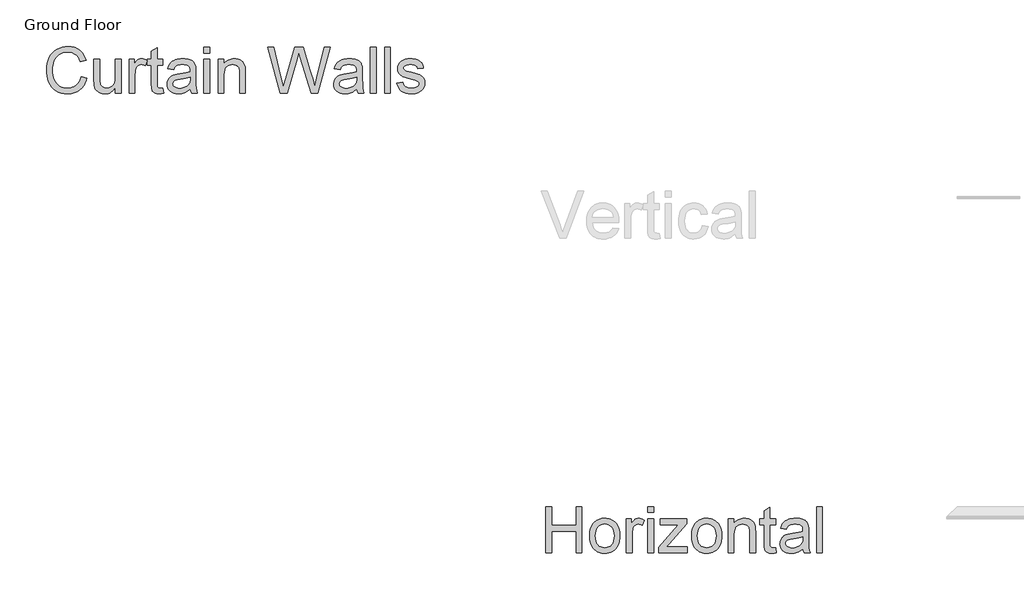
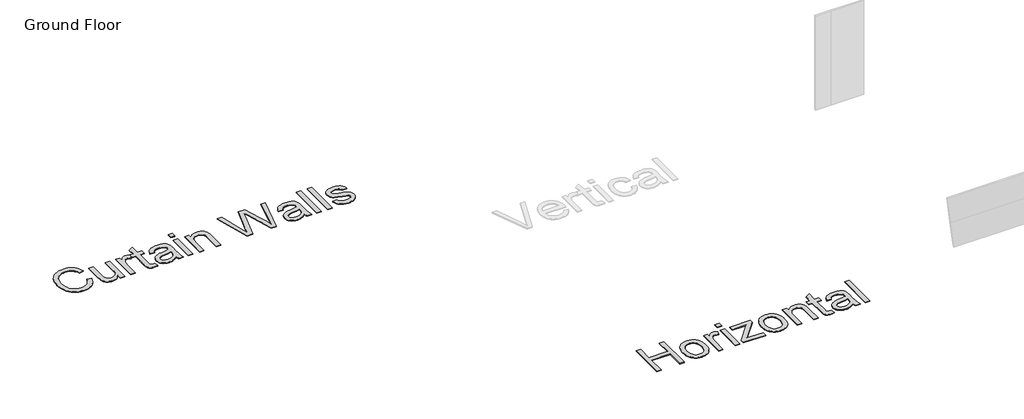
# One storey, part 4 of 11: 2 proxies.
"""IFC4 building model written with IfcOpenShell, lengths in millimetres."""

from ifc_helpers import new_model, si_unit, origin, origin_with_axes, place, context, project, spatial, polyline, outline, extrude, element, save

model = new_model("IFC4")

# Units and contexts
model_context = context("Model", 3, world=origin())
ifc_project = project(units=[si_unit("LENGTHUNIT", "METRE", prefix="MILLI")], contexts=[model_context])

# Site, building, storey
site = spatial("IfcSite", under=ifc_project)
building = spatial("IfcBuilding", under=site)
storey = spatial("IfcBuildingStorey", under=building, Name="Ground Floor", Elevation=0.0)

# Proxies
placement = place(None, origin())
element("IfcBuildingElementProxy", 1, Name="1200mm Arial", ObjectType="1200mm Arial", at=placement, inside=storey, context=model_context, shape_type="SweptSolid", body=[
    extrude(outline(polyline([(-43779.6139307, 9813.2835644), (-43632.7048398, 9775.4085644), (-43661.7746196, 9684.0476802), (-43679.9275404, 9642.6913902), (-43700.4924818, 9604.2178684), (-43723.4694438, 9568.6271147), (-43748.8584264, 9535.919129), (-43776.6594296, 9506.0939115), (-43806.8724534, 9479.1514621), (-43839.1702162, 9455.2442134), (-43873.2254364, 9434.5245978), (-43909.0381139, 9416.9926154), (-43946.6082489, 9402.6482661), (-43985.9358412, 9391.49155), (-44027.0208909, 9383.5224671), (-44069.863398, 9378.7410174), (-44114.4633625, 9377.1472008), (-44204.0488561, 9381.971242), (-44284.864996, 9396.4433655), (-44356.9117823, 9420.5635715), (-44420.1892148, 9454.3318599), (-44475.5670557, 9497.2460999), (-44523.9150671, 9548.804161), (-44565.2332489, 9609.0060431), (-44599.5216012, 9677.8517462), (-44626.448359, 9752.3643528), (-44645.6817574, 9829.5669451), (-44657.2217965, 9909.4595232), (-44661.0684762, 9992.0420871), (-44656.7196658, 10080.6502192), (-44643.6732347, 10163.4121155), (-44621.9291828, 10240.3277761), (-44591.4875102, 10311.3972008), (-44553.02968, 10375.4457626), (-44507.2371551, 10431.2988343), (-44454.1099357, 10478.956416), (-44393.6480216, 10518.4185076), (-44327.9047688, 10549.3623109), (-44258.933533, 10571.4650275), (-44186.7343142, 10584.7266574), (-44111.3071125, 10589.1472008), (-44027.2809229, 10583.4264976), (-43950.2307631, 10566.2643883), (-43914.3216944, 10553.3928062), (-43880.1566331, 10537.6608726), (-43847.7355793, 10519.0685875), (-43817.058533, 10497.6159508), (-43788.3855261, 10473.5674778), (-43761.9765905, 10447.1876837), (-43737.8317263, 10418.4765687), (-43715.9509335, 10387.4341326), (-43678.9815621, 10318.3552974), (-43651.0684762, 10239.951178), (-43797.9775671, 10204.9454962), (-43821.1114449, 10262.7174245), (-43848.9079648, 10312.0786638), (-43881.3671267, 10353.0292143), (-43918.4889307, 10385.5690758), (-43960.4885756, 10410.3617782), (-44007.5812602, 10428.0708513), (-44059.7669847, 10438.6962952), (-44117.0457489, 10442.2381099), (-44182.9504009, 10438.3107306), (-44243.2240159, 10426.5285928), (-44297.8665941, 10406.8916965), (-44346.8781352, 10379.4000417), (-44389.6399428, 10345.2910218), (-44425.5333199, 10305.8020303), (-44454.5582666, 10260.9330673), (-44476.714783, 10210.6841326), (-44493.0967965, 10157.3327476), (-44504.7982347, 10103.1564337), (-44511.8190976, 10048.1551908), (-44514.1593852, 9992.329019), (-44511.3886999, 9922.1741894), (-44503.0766438, 9856.610269), (-44489.2232169, 9795.6372576), (-44469.8284193, 9739.2551553), (-44444.5784193, 9688.5847896), (-44413.1593852, 9644.7469877), (-44375.5713171, 9607.7417498), (-44331.8142148, 9577.5690758), (-44284.0131672, 9554.1572327), (-44234.2932631, 9537.4344877), (-44182.6545024, 9527.4008407), (-44129.0968852, 9524.0562917), (-44065.2276558, 9528.6113343), (-44006.4693995, 9542.2764621), (-43952.8221161, 9565.0516752), (-43904.2858057, 9596.9369735), (-43862.0081956, 9637.7888911), (-43827.1370131, 9687.4639621), (-43799.6722581, 9745.9621866), (-43779.6139307, 9813.2835644)])), origin_with_axes(), (0.0, 0.0, 1.0), 20.0),
    extrude(outline(polyline([(-42898.1593852, 9395.5108371), (-42898.1593852, 9543.8545871), (-42923.6425174, 9504.7825435), (-42951.3135046, 9470.9201056), (-42981.1723469, 9442.2672736), (-43013.2190443, 9418.8240474), (-43047.4535969, 9400.590427), (-43083.8760046, 9387.5664124), (-43122.4862674, 9379.7520037), (-43163.2843852, 9377.1472008), (-43199.6798931, 9378.9763911), (-43234.8380074, 9384.4639621), (-43268.7587283, 9393.6099138), (-43301.4420557, 9406.4142462), (-43331.4443639, 9421.9802974), (-43357.3220273, 9439.4114053), (-43379.0750458, 9458.7075701), (-43396.7034193, 9479.8687917), (-43411.1127766, 9503.1999351), (-43423.208746, 9529.0058655), (-43440.4605216, 9588.0420871), (-43446.9164875, 9643.7068599), (-43449.0684762, 9724.6216326), (-43449.0684762, 10258.6017462), (-43302.1593852, 10258.6017462), (-43302.1593852, 9793.7722008), (-43299.9356637, 9700.8062917), (-43293.2644989, 9643.9937917), (-43284.4682453, 9617.5153648), (-43271.852212, 9594.0317888), (-43255.4163987, 9573.5430637), (-43235.1608057, 9556.0491894), (-43211.6951629, 9542.0522967), (-43185.6292006, 9532.0545161), (-43156.9629186, 9526.0558478), (-43125.6963171, 9524.0562917), (-43093.4971871, 9526.1006809), (-43062.3202517, 9532.2338485), (-43032.165511, 9542.4557945), (-43003.0329648, 9556.766519), (-42976.5007382, 9574.6011248), (-42954.1469563, 9595.394715), (-42935.9716189, 9619.1472896), (-42921.9747262, 9645.8588485), (-42911.5555145, 9677.2330495), (-42904.1132205, 9714.9735502), (-42899.6478441, 9759.0803506), (-42898.1593852, 9809.5534508), (-42898.1593852, 10258.6017462), (-42751.2502943, 10258.6017462), (-42751.2502943, 9395.5108371), (-42898.1593852, 9395.5108371)])), origin_with_axes(), (0.0, 0.0, 1.0), 20.0),
    extrude(outline(polyline([(-42549.2502943, 9395.5108371), (-42549.2502943, 10258.6017462), (-42420.7048398, 10258.6017462), (-42420.7048398, 10130.9170871), (-42396.4949676, 10171.7331383), (-42373.2176239, 10204.9454962), (-42350.8728085, 10230.554161), (-42329.4605216, 10248.5591326), (-42308.0123682, 10260.986867), (-42285.5599534, 10269.8638201), (-42262.1032773, 10275.189992), (-42237.6423398, 10276.9653826), (-42201.2019989, 10274.1319309), (-42164.4747262, 10265.6315758), (-42127.4605216, 10251.4643173), (-42090.1593852, 10231.6301553), (-42139.2247262, 10099.9284508), (-42165.0485898, 10113.1093812), (-42190.8724534, 10122.5243315), (-42216.6963171, 10128.1733016), (-42242.5201807, 10130.0562917), (-42265.0353618, 10128.2450346), (-42286.3848824, 10122.8112633), (-42306.5687425, 10113.7549778), (-42325.5869421, 10101.076178), (-42342.7221516, 10085.1873286), (-42357.2570415, 10066.500894), (-42369.1916118, 10045.0168741), (-42378.5258625, 10020.735269), (-42388.9450742, 9980.6365474), (-42396.3873682, 9938.672769), (-42402.3412034, 9849.1500417), (-42402.3412034, 9395.5108371), (-42549.2502943, 9395.5108371)])), origin_with_axes(), (0.0, 0.0, 1.0), 20.0),
    extrude(outline(polyline([(-41686.1593852, 9518.0307235), (-41667.7957489, 9391.2068599), (-41725.971175, 9380.6621155), (-41777.6906352, 9377.1472008), (-41815.1890372, 9378.6715261), (-41848.2041296, 9383.2445019), (-41876.7359122, 9390.8661283), (-41900.7843852, 9401.5364053), (-41920.977212, 9414.6814692), (-41937.9420557, 9429.7274565), (-41951.6789165, 9446.674367), (-41962.1877943, 9465.5222008), (-41969.9708199, 9490.790134), (-41975.5301239, 9526.9973428), (-41979.9775671, 9632.2295871), (-41979.9775671, 10111.6926553), (-42090.1593852, 10111.6926553), (-42090.1593852, 10258.6017462), (-41979.9775671, 10258.6017462), (-41979.9775671, 10468.3489053), (-41833.0684762, 10554.7153826), (-41833.0684762, 10258.6017462), (-41686.1593852, 10258.6017462), (-41686.1593852, 10111.6926553), (-41833.0684762, 10111.6926553), (-41833.0684762, 9636.5335644), (-41831.1316864, 9588.185553), (-41825.3213171, 9560.7835644), (-41815.171104, 9545.6120445), (-41800.214783, 9533.9554394), (-41779.0176949, 9526.5310786), (-41750.1451807, 9524.0562917), (-41686.1593852, 9518.0307235)])), origin_with_axes(), (0.0, 0.0, 1.0), 20.0),
    extrude(outline(polyline([(-40988.3412034, 9505.6926553), (-41023.1765195, 9473.0003613), (-41058.5318995, 9445.5087065), (-41094.4073433, 9423.2176908), (-41130.8028512, 9406.1273144), (-41168.1308874, 9393.4485147), (-41206.8039165, 9384.3922292), (-41246.8219385, 9378.9584579), (-41288.1849534, 9377.1472008), (-41353.5964414, 9381.5049778), (-41410.9559051, 9394.5783087), (-41460.2633448, 9416.3671937), (-41501.5187602, 9446.8716326), (-41534.0944882, 9484.1548357), (-41557.3628654, 9526.2800133), (-41571.3238916, 9573.2471653), (-41575.9775671, 9625.0562917), (-41574.2201097, 9656.2063272), (-41568.9477375, 9685.9575701), (-41560.1604506, 9714.3100204), (-41547.8582489, 9741.263678), (-41532.6956956, 9766.2267462), (-41515.327354, 9788.607428), (-41495.753224, 9808.4057235), (-41473.9733057, 9825.6216326), (-41425.374229, 9853.5974849), (-41371.1082489, 9873.826178), (-41318.2410614, 9885.0882519), (-41243.9974534, 9895.919928), (-41093.7886466, 9919.1614053), (-41035.7925529, 9932.288536), (-40989.2019989, 9946.419928), (-40988.3412034, 9979.1301553), (-40990.8697901, 10014.7455673), (-40998.45555, 10044.6940758), (-41011.0984833, 10068.9756809), (-41028.7985898, 10087.5903826), (-41059.3926949, 10106.1692178), (-41096.6579648, 10119.4398144), (-41140.5943995, 10127.4021724), (-41191.2019989, 10130.0562917), (-41238.2588171, 10128.2898677), (-41278.7162034, 10122.9905957), (-41312.574158, 10114.1584756), (-41339.8326807, 10101.7935076), (-41362.2312958, 10084.9272967), (-41381.5095273, 10062.5914479), (-41397.6673753, 10034.7859614), (-41410.7048398, 10001.5108371), (-41557.6139307, 10019.8744735), (-41546.4325564, 10062.1969167), (-41532.1128654, 10100.2153826), (-41514.6548575, 10133.9298712), (-41494.058533, 10163.3403826), (-41469.4361963, 10189.0387136), (-41439.9001523, 10211.616661), (-41405.4504009, 10231.0742249), (-41366.0869421, 10247.4114053), (-41322.607805, 10260.3412704), (-41275.8110188, 10269.5768883), (-41225.6965834, 10275.118259), (-41172.2644989, 10276.9653826), (-41120.0339414, 10275.3334579), (-41072.9502233, 10270.4376837), (-41031.0133448, 10262.2780601), (-40994.2233057, 10250.8545871), (-40962.2752411, 10236.9652938), (-40934.8642858, 10221.4082093), (-40911.9904399, 10204.1833336), (-40893.6537034, 10185.2906667), (-40878.7870486, 10164.2639444), (-40866.3234477, 10140.6369025), (-40848.605408, 10085.5818599), (-40843.2254364, 10034.794928), (-40841.4321125, 9957.0364053), (-40841.4321125, 9774.2608371), (-40839.5670557, 9615.0495445), (-40833.9718852, 9519.0349849), (-40822.9250102, 9455.9458513), (-40804.7048398, 9395.5108371), (-40951.6139307, 9395.5108371), (-40964.6693284, 9420.0435076), (-40975.1423398, 9446.5847008), (-40988.3412034, 9505.6926553)]), holes=[polyline([(-40988.3412034, 9799.5108371), (-41032.7439023, 9786.7961709), (-41087.0457489, 9775.0498996), (-41225.3468852, 9754.4625417), (-41301.5631495, 9743.2004678), (-41351.7403512, 9730.6472008), (-41384.6299108, 9714.3638201), (-41408.9832489, 9691.9114053), (-41424.0471693, 9665.0115474), (-41429.0684762, 9635.3858371), (-41426.3336573, 9612.5568244), (-41418.1292006, 9591.7004678), (-41404.4551061, 9572.8167675), (-41385.3113739, 9555.9057235), (-41360.8773362, 9541.9715971), (-41331.3323256, 9532.0186496), (-41296.6763419, 9526.0468812), (-41256.9093852, 9524.0562917), (-41216.308533, 9526.2531134), (-41178.0031352, 9532.8435786), (-41141.9931921, 9543.8276873), (-41108.2787034, 9559.2054394), (-41077.8639307, 9577.7035751), (-41051.7531352, 9598.0488343), (-41029.9463171, 9620.2412171), (-41012.4434762, 9644.2807235), (-41002.2753299, 9665.8006099), (-40995.0123682, 9691.9114053), (-40990.6545912, 9722.6131099), (-40989.2019989, 9757.9057235), (-40988.3412034, 9799.5108371)])]), origin_with_axes(), (0.0, 0.0, 1.0), 20.0),
    extrude(outline(polyline([(-40639.4321125, 10423.8744735), (-40639.4321125, 10570.7835644), (-40492.5230216, 10570.7835644), (-40492.5230216, 10423.8744735), (-40639.4321125, 10423.8744735)])), origin_with_axes(), (0.0, 0.0, 1.0), 20.0),
    extrude(outline(polyline([(-40639.4321125, 9395.5108371), (-40639.4321125, 10258.6017462), (-40492.5230216, 10258.6017462), (-40492.5230216, 9395.5108371), (-40639.4321125, 9395.5108371)])), origin_with_axes(), (0.0, 0.0, 1.0), 20.0),
    extrude(outline(polyline([(-40272.1593852, 9395.5108371), (-40272.1593852, 10258.6017462), (-40125.2502943, 10258.6017462), (-40125.2502943, 10138.0903826), (-40101.0135223, 10170.6392107), (-40074.2122972, 10198.8481951), (-40044.8466189, 10222.7173357), (-40012.9164875, 10242.2466326), (-39978.421903, 10257.4360857), (-39941.3628654, 10268.2856951), (-39901.7393746, 10274.7954607), (-39859.5514307, 10276.9653826), (-39822.5820593, 10275.2168918), (-39787.1370131, 10269.9714195), (-39753.2162922, 10261.2289657), (-39720.8198966, 10248.9895303), (-39691.1762531, 10233.9076766), (-39665.5137887, 10216.6379678), (-39643.8325031, 10197.1804039), (-39626.1323966, 10175.5349849), (-39599.411871, 10125.7881809), (-39582.0883625, 10067.5051553), (-39576.2779932, 10011.7686496), (-39574.3412034, 9925.4739053), (-39574.3412034, 9395.5108371), (-39721.2502943, 9395.5108371), (-39721.2502943, 9905.6756099), (-39725.4825387, 9981.6408087), (-39730.7728441, 10011.3920516), (-39738.1792716, 10035.6557235), (-39748.2667183, 10056.0906489), (-39761.6000813, 10074.3556525), (-39778.1793604, 10090.4507342), (-39798.0045557, 10104.375894), (-39820.3942041, 10115.611068), (-39844.6668426, 10123.6361923), (-39870.8224712, 10128.4512668), (-39898.8610898, 10130.0562917), (-39943.4700209, 10126.4517107), (-39984.9047688, 10115.6379678), (-40023.1653334, 10097.615063), (-40058.2517148, 10072.3829962), (-40073.9545069, 10056.3461976), (-40087.5635933, 10037.0724494), (-40099.0789742, 10014.5617516), (-40108.5006495, 9988.8141042), (-40121.0628831, 9927.6079607), (-40125.2502943, 9853.454019), (-40125.2502943, 9395.5108371), (-40272.1593852, 9395.5108371)])), origin_with_axes(), (0.0, 0.0, 1.0), 20.0),
    extrude(outline(polyline([(-38684.5656352, 9395.5108371), (-39005.0684762, 10570.7835644), (-38853.5684762, 10570.7835644), (-38667.636658, 9798.3631099), (-38610.2502943, 9559.922769), (-38548.8468852, 9770.8176553), (-38315.8582489, 10570.7835644), (-38097.5031352, 10570.7835644), (-37928.2133625, 9990.8943599), (-37889.5672333, 9883.366661), (-37855.6913455, 9775.6954962), (-37826.5856992, 9667.8808655), (-37802.2502943, 9559.922769), (-37746.5855216, 9791.4767462), (-37558.9321125, 10570.7835644), (-37407.4321125, 10570.7835644), (-37728.2218852, 9395.5108371), (-37885.1735898, 9395.5108371), (-38166.9406352, 10302.2153826), (-38206.2502943, 10428.7523144), (-38250.4377943, 10276.391519), (-38507.2417716, 9395.5108371), (-38684.5656352, 9395.5108371)])), origin_with_axes(), (0.0, 0.0, 1.0), 20.0),
    extrude(outline(polyline([(-36727.9775671, 9505.6926553), (-36762.8128831, 9473.0003613), (-36798.1682631, 9445.5087065), (-36834.043707, 9423.2176908), (-36870.4392148, 9406.1273144), (-36907.767251, 9393.4485147), (-36946.4402801, 9384.3922292), (-36986.4583022, 9378.9584579), (-37027.8213171, 9377.1472008), (-37093.232805, 9381.5049778), (-37150.5922688, 9394.5783087), (-37199.8997084, 9416.3671937), (-37241.1551239, 9446.8716326), (-37273.7308519, 9484.1548357), (-37296.999229, 9526.2800133), (-37310.9602553, 9573.2471653), (-37315.6139307, 9625.0562917), (-37313.8564733, 9656.2063272), (-37308.5841012, 9685.9575701), (-37299.7968142, 9714.3100204), (-37287.4946125, 9741.263678), (-37272.3320593, 9766.2267462), (-37254.9637176, 9788.607428), (-37235.3895877, 9808.4057235), (-37213.6096693, 9825.6216326), (-37165.0105926, 9853.5974849), (-37110.7446125, 9873.826178), (-37057.877425, 9885.0882519), (-36983.6338171, 9895.919928), (-36833.4250102, 9919.1614053), (-36775.4289165, 9932.288536), (-36728.8383625, 9946.419928), (-36727.9775671, 9979.1301553), (-36730.5061537, 10014.7455673), (-36738.0919137, 10044.6940758), (-36750.7348469, 10068.9756809), (-36768.4349534, 10087.5903826), (-36799.0290585, 10106.1692178), (-36836.2943284, 10119.4398144), (-36880.2307631, 10127.4021724), (-36930.8383625, 10130.0562917), (-36977.8951807, 10128.2898677), (-37018.3525671, 10122.9905957), (-37052.2105216, 10114.1584756), (-37079.4690443, 10101.7935076), (-37101.8676594, 10084.9272967), (-37121.1458909, 10062.5914479), (-37137.3037389, 10034.7859614), (-37150.3412034, 10001.5108371), (-37297.2502943, 10019.8744735), (-37286.06892, 10062.1969167), (-37271.749229, 10100.2153826), (-37254.2912212, 10133.9298712), (-37233.6948966, 10163.3403826), (-37209.07256, 10189.0387136), (-37179.5365159, 10211.616661), (-37145.0867645, 10231.0742249), (-37105.7233057, 10247.4114053), (-37062.2441686, 10260.3412704), (-37015.4473824, 10269.5768883), (-36965.332947, 10275.118259), (-36911.9008625, 10276.9653826), (-36859.670305, 10275.3334579), (-36812.586587, 10270.4376837), (-36770.6497084, 10262.2780601), (-36733.8596693, 10250.8545871), (-36701.9116047, 10236.9652938), (-36674.5006495, 10221.4082093), (-36651.6268036, 10204.1833336), (-36633.2900671, 10185.2906667), (-36618.4234122, 10164.2639444), (-36605.9598114, 10140.6369025), (-36588.2417716, 10085.5818599), (-36582.8618, 10034.794928), (-36581.0684762, 9957.0364053), (-36581.0684762, 9774.2608371), (-36579.2034193, 9615.0495445), (-36573.6082489, 9519.0349849), (-36562.5613739, 9455.9458513), (-36544.3412034, 9395.5108371), (-36691.2502943, 9395.5108371), (-36704.3056921, 9420.0435076), (-36714.7787034, 9446.5847008), (-36727.9775671, 9505.6926553)]), holes=[polyline([(-36727.9775671, 9799.5108371), (-36772.3802659, 9786.7961709), (-36826.6821125, 9775.0498996), (-36964.9832489, 9754.4625417), (-37041.1995131, 9743.2004678), (-37091.3767148, 9730.6472008), (-37124.2662745, 9714.3638201), (-37148.6196125, 9691.9114053), (-37163.683533, 9665.0115474), (-37168.7048398, 9635.3858371), (-37165.9700209, 9612.5568244), (-37157.7655642, 9591.7004678), (-37144.0914698, 9572.8167675), (-37124.9477375, 9555.9057235), (-37100.5136999, 9541.9715971), (-37070.9686892, 9532.0186496), (-37036.3127056, 9526.0468812), (-36996.5457489, 9524.0562917), (-36955.9448966, 9526.2531134), (-36917.6394989, 9532.8435786), (-36881.6295557, 9543.8276873), (-36847.9150671, 9559.2054394), (-36817.5002943, 9577.7035751), (-36791.3894989, 9598.0488343), (-36769.5826807, 9620.2412171), (-36752.0798398, 9644.2807235), (-36741.9116935, 9665.8006099), (-36734.6487318, 9691.9114053), (-36730.2909549, 9722.6131099), (-36728.8383625, 9757.9057235), (-36727.9775671, 9799.5108371)])]), origin_with_axes(), (0.0, 0.0, 1.0), 20.0),
    extrude(outline(polyline([(-36379.0684762, 9395.5108371), (-36379.0684762, 10570.7835644), (-36232.1593852, 10570.7835644), (-36232.1593852, 9395.5108371), (-36379.0684762, 9395.5108371)])), origin_with_axes(), (0.0, 0.0, 1.0), 20.0),
    extrude(outline(polyline([(-36011.7957489, 9395.5108371), (-36011.7957489, 10570.7835644), (-35864.886658, 10570.7835644), (-35864.886658, 9395.5108371), (-36011.7957489, 9395.5108371)])), origin_with_axes(), (0.0, 0.0, 1.0), 20.0),
    extrude(outline(polyline([(-35699.6139307, 9652.6017462), (-35552.7048398, 9670.9653826), (-35543.8278867, 9637.4660928), (-35529.5350955, 9608.1273144), (-35509.8264662, 9582.9490474), (-35484.7019989, 9561.9312917), (-35454.0899605, 9545.3609792), (-35417.9186182, 9533.5250417), (-35376.1879719, 9526.4234792), (-35328.8980216, 9524.0562917), (-35281.661871, 9526.2262136), (-35240.9534193, 9532.7359792), (-35206.7726665, 9543.5855886), (-35179.1196125, 9558.7750417), (-35157.7790585, 9576.8876127), (-35142.5358057, 9596.5065758), (-35133.389854, 9617.6319309), (-35130.3412034, 9640.263678), (-35133.4077872, 9660.09784), (-35142.6075387, 9677.7082803), (-35157.9404577, 9693.0949991), (-35179.4065443, 9706.2579962), (-35234.4257205, 9724.9085644), (-35330.6196125, 9748.1500417), (-35464.6885046, 9786.9217036), (-35551.8440443, 9820.0264621), (-35581.765653, 9836.6236745), (-35607.8316154, 9856.1440048), (-35630.0419314, 9878.5874529), (-35648.3966012, 9903.954019), (-35662.7700919, 9931.4815403), (-35673.036871, 9960.4078542), (-35679.1969385, 9990.7329607), (-35681.2502943, 10022.4568599), (-35679.6004364, 10051.4638734), (-35674.6508625, 10079.3769593), (-35666.4015727, 10106.1961177), (-35654.8525671, 10131.9213485), (-35640.4521764, 10156.0325878), (-35623.6487318, 10178.0097718), (-35604.4422333, 10197.8529003), (-35582.8326807, 10215.5619735), (-35542.2676949, 10239.197982), (-35489.4363739, 10259.032144), (-35428.3557631, 10272.4820729), (-35363.042908, 10276.9653826), (-35313.672702, 10275.1630921), (-35267.4228796, 10269.7562207), (-35224.2934406, 10260.7447682), (-35184.2843852, 10248.1287349), (-35148.346175, 10232.4371511), (-35117.4292716, 10214.1990474), (-35091.533675, 10193.4144238), (-35070.6593852, 10170.0832803), (-35053.730408, 10143.3896546), (-35039.6707489, 10112.5175843), (-35028.480408, 10077.4670694), (-35020.1593852, 10038.2381099), (-35167.0684762, 10019.8744735), (-35174.0714058, 10044.4161106), (-35185.6114449, 10066.1063627), (-35201.6885933, 10084.9452299), (-35222.3028512, 10100.9327121), (-35247.5438845, 10113.6742782), (-35277.5013597, 10122.7753968), (-35312.1752766, 10128.236068), (-35351.5656352, 10130.0562917), (-35397.2595273, 10128.3167675), (-35435.9235898, 10123.0981951), (-35467.5578227, 10114.4005744), (-35492.1622262, 10102.2239053), (-35510.6155287, 10087.7338485), (-35523.7964591, 10072.0960644), (-35531.7050174, 10055.310553), (-35534.3412034, 10037.3773144), (-35529.9654932, 10014.7814337), (-35516.8383625, 9994.6244735), (-35494.3859477, 9976.6195019), (-35462.0343852, 9962.201178), (-35335.4974534, 9930.9256099), (-35205.6966722, 9892.5484792), (-35119.8681921, 9861.7750417), (-35089.6686182, 9846.7649209), (-35062.9122262, 9828.7061496), (-35039.5990159, 9807.5987278), (-35019.7289875, 9783.4426553), (-35003.8491047, 9756.2020658), (-34992.5063313, 9725.8410928), (-34985.7006672, 9692.3597363), (-34983.4321125, 9655.7579962), (-34986.0951985, 9618.994857), (-34994.0844563, 9583.3077121), (-35007.399886, 9548.6965616), (-35026.0414875, 9515.1614053), (-35049.7043959, 9484.0382697), (-35078.083746, 9456.6631809), (-35111.1795379, 9433.036139), (-35148.9917716, 9413.157144), (-35190.4892858, 9397.4027938), (-35234.6409193, 9386.1496866), (-35281.4466722, 9379.3978222), (-35330.9065443, 9377.1472008), (-35409.9741935, 9381.4870445), (-35479.0350955, 9394.5065758), (-35538.0892503, 9416.2057945), (-35587.136658, 9446.5847008), (-35627.1995131, 9485.4998286), (-35659.3000102, 9532.8077121), (-35683.4381495, 9588.5083513), (-35699.6139307, 9652.6017462)])), origin_with_axes(), (0.0, 0.0, 1.0), 20.0),
])
element("IfcBuildingElementProxy", 2, Name="1200mm Arial", ObjectType="1200mm Arial", at=placement, inside=storey, context=model_context, shape_type="SweptSolid", body=[
    extrude(outline(polyline([(-31890.3482906, -2369.0635658), (-31890.3482906, -1193.7908385), (-31743.4391996, -1193.7908385), (-31743.4391996, -1671.2453839), (-31119.0755633, -1671.2453839), (-31119.0755633, -1193.7908385), (-30972.1664724, -1193.7908385), (-30972.1664724, -2369.0635658), (-31119.0755633, -2369.0635658), (-31119.0755633, -1818.1544749), (-31743.4391996, -1818.1544749), (-31743.4391996, -2369.0635658), (-31890.3482906, -2369.0635658)])), origin_with_axes(), (0.0, 0.0, 1.0), 20.0),
    extrude(outline(polyline([(-30770.1664724, -1937.5181112), (-30768.1803662, -1879.6968665), (-30762.2220477, -1825.7402348), (-30752.2915168, -1775.648216), (-30738.3887735, -1729.4208101), (-30720.5138179, -1687.0580171), (-30698.6666499, -1648.5598371), (-30672.8472696, -1613.9262699), (-30643.0556769, -1583.1573158), (-30615.7881876, -1560.763184), (-30587.0681059, -1541.3549365), (-30556.8954319, -1524.9325732), (-30525.2701656, -1511.4960942), (-30492.1923069, -1501.0454994), (-30457.6618559, -1493.5807888), (-30384.2431769, -1487.6090203), (-30342.7479044, -1489.4270024), (-30303.1939049, -1494.8809486), (-30265.5811785, -1503.9708589), (-30229.9097252, -1516.6967334), (-30196.179545, -1533.058572), (-30164.3906379, -1553.0563747), (-30134.5430038, -1576.6901416), (-30106.6366428, -1603.9598726), (-30081.3844012, -1634.43517), (-30059.4991251, -1667.6856361), (-30040.9808145, -1703.7112708), (-30025.8294695, -1742.5120743), (-30014.0450901, -1784.0880464), (-30005.6276762, -1828.4391872), (-30000.5772279, -1875.5654967), (-29998.8937451, -1925.4669749), (-30001.8706627, -2004.1042263), (-30010.8014156, -2073.8824578), (-30025.6860036, -2134.8016695), (-30046.5244269, -2186.8618612), (-30073.0566535, -2231.8294571), (-30105.0226513, -2271.4708811), (-30142.4224205, -2305.7861332), (-30185.255961, -2334.7752135), (-30231.8554816, -2357.8104585), (-30280.5531911, -2374.264205), (-30331.3490896, -2384.1364528), (-30384.2431769, -2387.4272021), (-30426.3930127, -2385.615945), (-30466.4760427, -2380.1821737), (-30504.4922669, -2371.1258882), (-30540.4416854, -2358.4470885), (-30574.3242982, -2342.1457746), (-30606.1401052, -2322.2219464), (-30635.8891064, -2298.6756041), (-30663.5713019, -2271.5067476), (-30688.554545, -2240.9305757), (-30710.206689, -2207.1622874), (-30728.5277339, -2170.2018825), (-30743.5176798, -2130.0493612), (-30755.1765265, -2086.7047234), (-30763.5042742, -2040.1679692), (-30768.5009228, -1990.4390984), (-30770.1664724, -1937.5181112)]), holes=[polyline([(-30623.2573815, -1937.2311794), (-30619.0072039, -2008.4889031), (-30606.2566712, -2070.1882106), (-30585.0057835, -2122.329102), (-30555.2545406, -2164.9115771), (-30519.065265, -2197.9894358), (-30478.5002792, -2221.6164777), (-30433.5595832, -2235.7927028), (-30384.2431769, -2240.5181112), (-30335.177836, -2235.765803), (-30290.4164724, -2221.5088783), (-30249.959086, -2197.7473371), (-30213.8056769, -2164.4811794), (-30184.054434, -2121.4772731), (-30162.8035462, -2068.5024862), (-30150.0530136, -2005.5568186), (-30145.802836, -1932.6402703), (-30150.0799134, -1863.6421347), (-30162.9111457, -1803.5568186), (-30184.2965327, -1752.3843222), (-30214.2360746, -1710.1246453), (-30250.523983, -1677.0467866), (-30290.9544695, -1653.4197447), (-30335.5275342, -1639.2435196), (-30384.2431769, -1634.5181112), (-30433.5595832, -1639.2255864), (-30478.5002792, -1653.3480118), (-30519.065265, -1676.8853875), (-30555.2545406, -1709.8377135), (-30585.0057835, -1752.294656), (-30606.2566712, -1804.3458811), (-30619.0072039, -1865.9913889), (-30623.2573815, -1937.2311794)])]), origin_with_axes(), (0.0, 0.0, 1.0), 20.0),
    extrude(outline(polyline([(-29833.6210178, -2369.0635658), (-29833.6210178, -1505.9726567), (-29705.0755633, -1505.9726567), (-29705.0755633, -1633.6573158), (-29680.8656911, -1592.8412646), (-29657.5883474, -1559.6289067), (-29635.243532, -1534.0202419), (-29613.8312451, -1516.0152703), (-29592.3830917, -1503.5875359), (-29569.9306769, -1494.7105828), (-29546.4740008, -1489.3844109), (-29522.0130633, -1487.6090203), (-29485.5727224, -1490.442472), (-29448.8454496, -1498.9428271), (-29411.8312451, -1513.1100856), (-29374.5301087, -1532.9442476), (-29423.5954496, -1664.6459521), (-29449.4193133, -1651.4650217), (-29475.2431769, -1642.0500714), (-29501.0670406, -1636.4011013), (-29526.8909042, -1634.5181112), (-29549.4060853, -1636.3293683), (-29570.7556059, -1641.7631396), (-29590.939466, -1650.8194251), (-29609.9576656, -1663.4982249), (-29627.0928751, -1679.3870743), (-29641.627765, -1698.0735089), (-29653.5623353, -1719.5575288), (-29662.896586, -1743.8391339), (-29673.3157977, -1783.9378555), (-29680.7580917, -1825.9016339), (-29686.7119269, -1915.4243612), (-29686.7119269, -2369.0635658), (-29833.6210178, -2369.0635658)])), origin_with_axes(), (0.0, 0.0, 1.0), 20.0),
    extrude(outline(polyline([(-29282.7119269, -2369.0635658), (-29282.7119269, -1505.9726567), (-29135.802836, -1505.9726567), (-29135.802836, -2369.0635658), (-29282.7119269, -2369.0635658)])), origin_with_axes(), (0.0, 0.0, 1.0), 20.0),
    extrude(outline(polyline([(-29282.7119269, -1340.6999294), (-29282.7119269, -1193.7908385), (-29135.802836, -1193.7908385), (-29135.802836, -1340.6999294), (-29282.7119269, -1340.6999294)])), origin_with_axes(), (0.0, 0.0, 1.0), 20.0),
    extrude(outline(polyline([(-29007.2573815, -2369.0635658), (-29007.2573815, -2230.7624294), (-28500.2488587, -1652.8817476), (-28650.3141996, -1652.8817476), (-28970.5301087, -1652.8817476), (-28970.5301087, -1505.9726567), (-28291.0755633, -1505.9726567), (-28291.0755633, -1630.7879976), (-28740.6977224, -2143.5351567), (-28809.5613587, -2222.1544749), (-28639.6977224, -2222.1544749), (-28272.7119269, -2222.1544749), (-28272.7119269, -2369.0635658), (-29007.2573815, -2369.0635658)])), origin_with_axes(), (0.0, 0.0, 1.0), 20.0),
    extrude(outline(polyline([(-28162.5301087, -1937.5181112), (-28160.5440026, -1879.6968665), (-28154.585684, -1825.7402348), (-28144.6551531, -1775.648216), (-28130.7524099, -1729.4208101), (-28112.8774543, -1687.0580171), (-28091.0302863, -1648.5598371), (-28065.210906, -1613.9262699), (-28035.4193133, -1583.1573158), (-28008.1518239, -1560.763184), (-27979.4317423, -1541.3549365), (-27949.2590683, -1524.9325732), (-27917.6338019, -1511.4960942), (-27884.5559433, -1501.0454994), (-27850.0254923, -1493.5807888), (-27776.6068133, -1487.6090203), (-27735.1115407, -1489.4270024), (-27695.5575413, -1494.8809486), (-27657.9448149, -1503.9708589), (-27622.2733616, -1516.6967334), (-27588.5431814, -1533.058572), (-27556.7542742, -1553.0563747), (-27526.9066402, -1576.6901416), (-27499.0002792, -1603.9598726), (-27473.7480375, -1634.43517), (-27451.8627614, -1667.6856361), (-27433.3444509, -1703.7112708), (-27418.1931059, -1742.5120743), (-27406.4087265, -1784.0880464), (-27397.9913126, -1828.4391872), (-27392.9408642, -1875.5654967), (-27391.2573815, -1925.4669749), (-27394.2342991, -2004.1042263), (-27403.1650519, -2073.8824578), (-27418.04964, -2134.8016695), (-27438.8880633, -2186.8618612), (-27465.4202898, -2231.8294571), (-27497.3862877, -2271.4708811), (-27534.7860569, -2305.7861332), (-27577.6195974, -2334.7752135), (-27624.219118, -2357.8104585), (-27672.9168275, -2374.264205), (-27723.7127259, -2384.1364528), (-27776.6068133, -2387.4272021), (-27818.756649, -2385.615945), (-27858.839679, -2380.1821737), (-27896.8559033, -2371.1258882), (-27932.8053218, -2358.4470885), (-27966.6879346, -2342.1457746), (-27998.5037415, -2322.2219464), (-28028.2527428, -2298.6756041), (-28055.9349383, -2271.5067476), (-28080.9181814, -2240.9305757), (-28102.5703254, -2207.1622874), (-28120.8913703, -2170.2018825), (-28135.8813161, -2130.0493612), (-28147.5401629, -2086.7047234), (-28155.8679106, -2040.1679692), (-28160.8645592, -1990.4390984), (-28162.5301087, -1937.5181112)]), holes=[polyline([(-28015.6210178, -1937.2311794), (-28011.3708403, -2008.4889031), (-27998.6203076, -2070.1882106), (-27977.3694198, -2122.329102), (-27947.6181769, -2164.9115771), (-27911.4289013, -2197.9894358), (-27870.8639156, -2221.6164777), (-27825.9232195, -2235.7927028), (-27776.6068133, -2240.5181112), (-27727.5414724, -2235.765803), (-27682.7801087, -2221.5088783), (-27642.3227224, -2197.7473371), (-27606.1693133, -2164.4811794), (-27576.4180704, -2121.4772731), (-27555.1671826, -2068.5024862), (-27542.4166499, -2005.5568186), (-27538.1664724, -1932.6402703), (-27542.4435498, -1863.6421347), (-27555.274782, -1803.5568186), (-27576.6601691, -1752.3843222), (-27606.599711, -1710.1246453), (-27642.8876194, -1677.0467866), (-27683.3181059, -1653.4197447), (-27727.8911705, -1639.2435196), (-27776.6068133, -1634.5181112), (-27825.9232195, -1639.2255864), (-27870.8639156, -1653.3480118), (-27911.4289013, -1676.8853875), (-27947.6181769, -1709.8377135), (-27977.3694198, -1752.294656), (-27998.6203076, -1804.3458811), (-28011.3708403, -1865.9913889), (-28015.6210178, -1937.2311794)])]), origin_with_axes(), (0.0, 0.0, 1.0), 20.0),
    extrude(outline(polyline([(-27225.9846542, -2369.0635658), (-27225.9846542, -1505.9726567), (-27079.0755633, -1505.9726567), (-27079.0755633, -1626.4840203), (-27054.8387913, -1593.9351922), (-27028.0375661, -1565.7262078), (-26998.6718879, -1541.8570672), (-26966.7417565, -1522.3277703), (-26932.2471719, -1507.1383172), (-26895.1881343, -1496.2887078), (-26855.5646435, -1489.7789422), (-26813.3766996, -1487.6090203), (-26776.4073282, -1489.3575111), (-26740.962282, -1494.6029834), (-26707.0415611, -1503.3454372), (-26674.6451656, -1515.5848726), (-26645.0015221, -1530.6667263), (-26619.3390576, -1547.9364351), (-26597.6577721, -1567.393999), (-26579.9576656, -1589.039418), (-26553.23714, -1638.786222), (-26535.9136315, -1697.0692476), (-26530.1032621, -1752.8057533), (-26528.1664724, -1839.1004976), (-26528.1664724, -2369.0635658), (-26675.0755633, -2369.0635658), (-26675.0755633, -1858.898793), (-26679.3078076, -1782.9335942), (-26684.598113, -1753.1823513), (-26692.0045406, -1728.9186794), (-26702.0919873, -1708.483754), (-26715.4253502, -1690.2187504), (-26732.0046293, -1674.1236687), (-26751.8298246, -1660.1985089), (-26774.2194731, -1648.9633349), (-26798.4921116, -1640.9382106), (-26824.6477401, -1636.1231361), (-26852.6863587, -1634.5181112), (-26897.2952898, -1638.1226922), (-26938.7300377, -1648.9364351), (-26976.9906023, -1666.9593399), (-27012.0769837, -1692.1914067), (-27027.7797758, -1708.2282053), (-27041.3888623, -1727.5019535), (-27052.9042431, -1750.0126513), (-27062.3259184, -1775.7602987), (-27074.8881521, -1836.9664422), (-27079.0755633, -1911.1203839), (-27079.0755633, -2369.0635658), (-27225.9846542, -2369.0635658)])), origin_with_axes(), (0.0, 0.0, 1.0), 20.0),
    extrude(outline(polyline([(-26013.9846542, -2246.5436794), (-25995.6210178, -2373.367543), (-26053.796444, -2383.9122874), (-26105.5159042, -2387.4272021), (-26143.0143062, -2385.9028768), (-26176.0293985, -2381.329901), (-26204.5611812, -2373.7082746), (-26228.6096542, -2363.0379976), (-26248.8024809, -2349.8929337), (-26265.7673246, -2334.8469464), (-26279.5041854, -2317.9000359), (-26290.0130633, -2299.0522021), (-26297.7960888, -2273.7842689), (-26303.3553928, -2237.5770601), (-26307.802836, -2132.3448158), (-26307.802836, -1652.8817476), (-26417.9846542, -1652.8817476), (-26417.9846542, -1505.9726567), (-26307.802836, -1505.9726567), (-26307.802836, -1296.2254976), (-26160.8937451, -1209.8590203), (-26160.8937451, -1505.9726567), (-26013.9846542, -1505.9726567), (-26013.9846542, -1652.8817476), (-26160.8937451, -1652.8817476), (-26160.8937451, -2128.0408385), (-26158.9569553, -2176.3888499), (-26153.146586, -2203.7908385), (-26142.9963729, -2218.9623584), (-26128.0400519, -2230.6189635), (-26106.8429638, -2238.0433243), (-26077.9704496, -2240.5181112), (-26013.9846542, -2246.5436794)])), origin_with_axes(), (0.0, 0.0, 1.0), 20.0),
    extrude(outline(polyline([(-25316.1664724, -2258.8817476), (-25351.0017884, -2291.5740416), (-25386.3571684, -2319.0656964), (-25422.2326123, -2341.3567121), (-25458.6281201, -2358.4470885), (-25495.9561563, -2371.1258882), (-25534.6291854, -2380.1821737), (-25574.6472075, -2385.615945), (-25616.0102224, -2387.4272021), (-25681.4217103, -2383.0694251), (-25738.7811741, -2369.9960942), (-25788.0886137, -2348.2072092), (-25829.3440292, -2317.7027703), (-25861.9197572, -2280.4195672), (-25885.1881343, -2238.2943896), (-25899.1491606, -2191.3272376), (-25903.802836, -2139.5181112), (-25902.0453786, -2108.3680757), (-25896.7730065, -2078.6168328), (-25887.9857195, -2050.2643825), (-25875.6835178, -2023.3107249), (-25860.5209646, -1998.3476567), (-25843.1526229, -1975.9669749), (-25823.578493, -1956.1686794), (-25801.7985746, -1938.9527703), (-25753.1994979, -1910.976918), (-25698.9335178, -1890.7482249), (-25646.0663303, -1879.486151), (-25571.8227224, -1868.6544749), (-25421.6139156, -1845.4129976), (-25363.6178218, -1832.2858669), (-25317.0272678, -1818.1544749), (-25316.1664724, -1785.4442476), (-25318.695059, -1749.8288356), (-25326.280819, -1719.8803271), (-25338.9237522, -1695.598722), (-25356.6238587, -1676.9840203), (-25387.2179638, -1658.4051851), (-25424.4832337, -1645.1345885), (-25468.4196684, -1637.1722305), (-25519.0272678, -1634.5181112), (-25566.084086, -1636.2845352), (-25606.5414724, -1641.5838072), (-25640.3994269, -1650.4159273), (-25667.6579496, -1662.7808953), (-25690.0565647, -1679.6471062), (-25709.3347962, -1701.982955), (-25725.4926442, -1729.7884415), (-25738.5301087, -1763.0635658), (-25885.4391996, -1744.6999294), (-25874.2578254, -1702.3774862), (-25859.9381343, -1664.3590203), (-25842.4801265, -1630.6445317), (-25821.8838019, -1601.2340203), (-25797.2614653, -1575.5356893), (-25767.7254212, -1552.9577419), (-25733.2756698, -1533.500178), (-25693.912211, -1517.1629976), (-25650.4330739, -1504.2331325), (-25603.6362877, -1494.9975146), (-25553.5218523, -1489.4561439), (-25500.0897678, -1487.6090203), (-25447.8592103, -1489.240945), (-25400.7754923, -1494.1367192), (-25358.8386137, -1502.2963427), (-25322.0485746, -1513.7198158), (-25290.10051, -1527.6091091), (-25262.6895548, -1543.1661936), (-25239.8157089, -1560.3910693), (-25221.4789724, -1579.2837362), (-25206.6123175, -1600.3104585), (-25194.1487167, -1623.9375004), (-25176.4306769, -1678.992543), (-25171.0507053, -1729.7794749), (-25169.2573815, -1807.5379976), (-25169.2573815, -1990.3135658), (-25167.3923246, -2149.5248584), (-25161.7971542, -2245.539418), (-25150.7502792, -2308.6285516), (-25132.5301087, -2369.0635658), (-25279.4391996, -2369.0635658), (-25292.4945974, -2344.5308953), (-25302.9676087, -2317.9897021), (-25316.1664724, -2258.8817476)]), holes=[polyline([(-25316.1664724, -1965.0635658), (-25360.5691712, -1977.778232), (-25414.8710178, -1989.5245033), (-25553.1721542, -2010.1118612), (-25629.3884184, -2021.3739351), (-25679.5656201, -2033.9272021), (-25712.4551798, -2050.2105828), (-25736.8085178, -2072.6629976), (-25751.8724383, -2099.5628555), (-25756.8937451, -2129.1885658), (-25754.1589262, -2152.0175785), (-25745.9544695, -2172.8739351), (-25732.2803751, -2191.7576354), (-25713.1366428, -2208.6686794), (-25688.7026052, -2222.6028058), (-25659.1575945, -2232.5557533), (-25624.5016109, -2238.5275217), (-25584.7346542, -2240.5181112), (-25544.1338019, -2238.3212895), (-25505.8284042, -2231.7308243), (-25469.818461, -2220.7467156), (-25436.1039724, -2205.3689635), (-25405.6891996, -2186.8708278), (-25379.5784042, -2166.5255686), (-25357.771586, -2144.3331858), (-25340.2687451, -2120.2936794), (-25330.1005988, -2098.773793), (-25322.8376371, -2072.6629976), (-25318.4798602, -2041.961293), (-25317.0272678, -2006.6686794), (-25316.1664724, -1965.0635658)])]), origin_with_axes(), (0.0, 0.0, 1.0), 20.0),
    extrude(outline(polyline([(-24967.2573815, -2369.0635658), (-24967.2573815, -1193.7908385), (-24820.3482906, -1193.7908385), (-24820.3482906, -2369.0635658), (-24967.2573815, -2369.0635658)])), origin_with_axes(), (0.0, 0.0, 1.0), 20.0),
])

save(model, "model.ifc")
